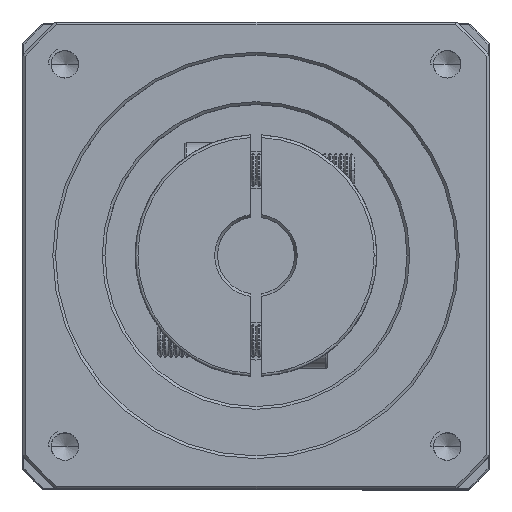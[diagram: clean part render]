
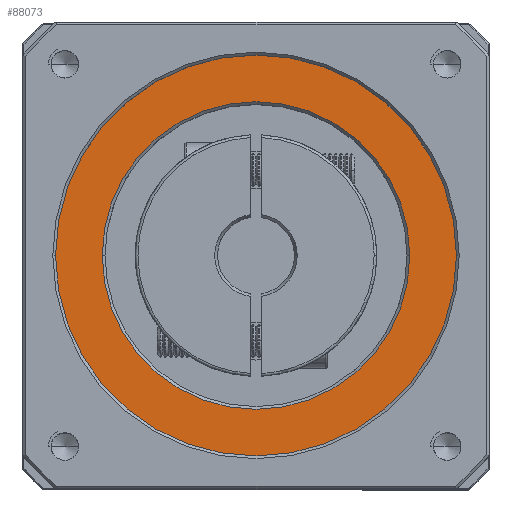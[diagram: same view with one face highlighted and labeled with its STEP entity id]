
A CAD part, top view. The second image highlights one B-rep face of the part: STEP entity #88073.
In plain terms, the highlighted planar face has unit normal (0, 0, 1).
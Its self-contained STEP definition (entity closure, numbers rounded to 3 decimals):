
#3988 = DIRECTION ( 'NONE',  ( 1., 0., 0. ) ) ;
#14843 = AXIS2_PLACEMENT_3D ( 'NONE', #35093, #45136, #63140 ) ;
#15419 = CARTESIAN_POINT ( 'NONE',  ( -39.569, 50.545, 5.935 ) ) ;
#22286 = CARTESIAN_POINT ( 'NONE',  ( -39.569, 50.545, 5.935 ) ) ;
#22381 = CIRCLE ( 'NONE', #31067, 36.5 ) ;
#23977 = CIRCLE ( 'NONE', #100069, 28. ) ;
#24232 = CARTESIAN_POINT ( 'NONE',  ( -39.569, 50.545, 5.935 ) ) ;
#30257 = EDGE_LOOP ( 'NONE', ( #64599, #39951 ) ) ;
#31067 = AXIS2_PLACEMENT_3D ( 'NONE', #15419, #35413, #93503 ) ;
#35093 = CARTESIAN_POINT ( 'NONE',  ( -39.569, 50.545, 5.935 ) ) ;
#35271 = CARTESIAN_POINT ( 'NONE',  ( -11.569, 50.545, 5.935 ) ) ;
#35413 = DIRECTION ( 'NONE',  ( 0., 0., 1. ) ) ;
#37026 = AXIS2_PLACEMENT_3D ( 'NONE', #69297, #39232, #115541 ) ;
#37556 = VERTEX_POINT ( 'NONE', #58064 ) ;
#37705 = EDGE_CURVE ( 'NONE', #109558, #106306, #59639, .T. ) ;
#39232 = DIRECTION ( 'NONE',  ( 0., 0., 1. ) ) ;
#39951 = ORIENTED_EDGE ( 'NONE', *, *, #88751, .T. ) ;
#43624 = VERTEX_POINT ( 'NONE', #35271 ) ;
#45136 = DIRECTION ( 'NONE',  ( 0., 0., -1. ) ) ;
#45236 = FACE_OUTER_BOUND ( 'NONE', #45306, .T. ) ;
#45306 = EDGE_LOOP ( 'NONE', ( #90306, #117594 ) ) ;
#50754 = DIRECTION ( 'NONE',  ( 0., 0., 1. ) ) ;
#53231 = EDGE_CURVE ( 'NONE', #43624, #37556, #92780, .T. ) ;
#58064 = CARTESIAN_POINT ( 'NONE',  ( -67.569, 50.545, 5.935 ) ) ;
#59639 = CIRCLE ( 'NONE', #37026, 36.5 ) ;
#63140 = DIRECTION ( 'NONE',  ( 1., 0., 0. ) ) ;
#64599 = ORIENTED_EDGE ( 'NONE', *, *, #53231, .T. ) ;
#67615 = FACE_BOUND ( 'NONE', #30257, .T. ) ;
#69297 = CARTESIAN_POINT ( 'NONE',  ( -39.569, 50.545, 5.935 ) ) ;
#75073 = EDGE_CURVE ( 'NONE', #106306, #109558, #22381, .T. ) ;
#77064 = PLANE ( 'NONE',  #85666 ) ;
#81902 = DIRECTION ( 'NONE',  ( 0., 0., -1. ) ) ;
#82318 = DIRECTION ( 'NONE',  ( 1., 0., 0. ) ) ;
#85666 = AXIS2_PLACEMENT_3D ( 'NONE', #22286, #50754, #3988 ) ;
#88073 = ADVANCED_FACE ( 'NONE', ( #45236, #67615 ), #77064, .T. ) ;
#88751 = EDGE_CURVE ( 'NONE', #37556, #43624, #23977, .T. ) ;
#90306 = ORIENTED_EDGE ( 'NONE', *, *, #37705, .T. ) ;
#91364 = CARTESIAN_POINT ( 'NONE',  ( -3.069, 50.545, 5.935 ) ) ;
#92780 = CIRCLE ( 'NONE', #14843, 28. ) ;
#93503 = DIRECTION ( 'NONE',  ( 1., 0., 0. ) ) ;
#96533 = CARTESIAN_POINT ( 'NONE',  ( -76.069, 50.545, 5.935 ) ) ;
#100069 = AXIS2_PLACEMENT_3D ( 'NONE', #24232, #81902, #82318 ) ;
#106306 = VERTEX_POINT ( 'NONE', #96533 ) ;
#109558 = VERTEX_POINT ( 'NONE', #91364 ) ;
#115541 = DIRECTION ( 'NONE',  ( 1., 0., 0. ) ) ;
#117594 = ORIENTED_EDGE ( 'NONE', *, *, #75073, .T. ) ;
